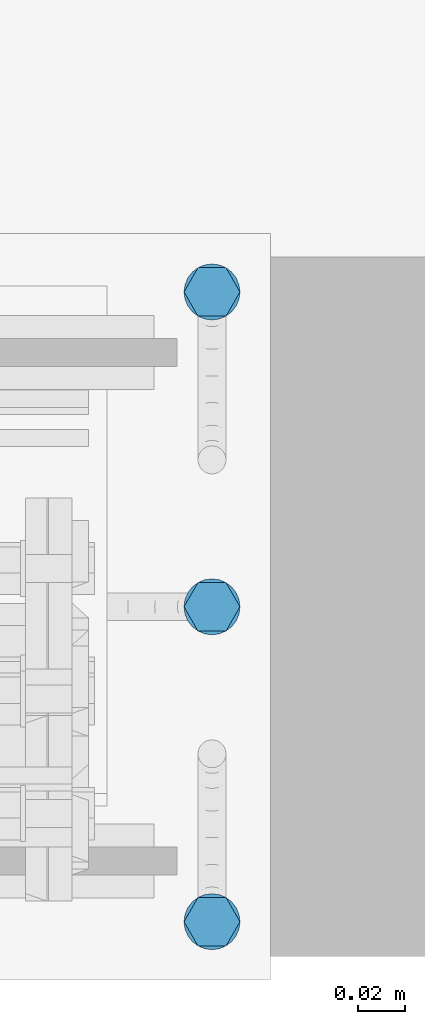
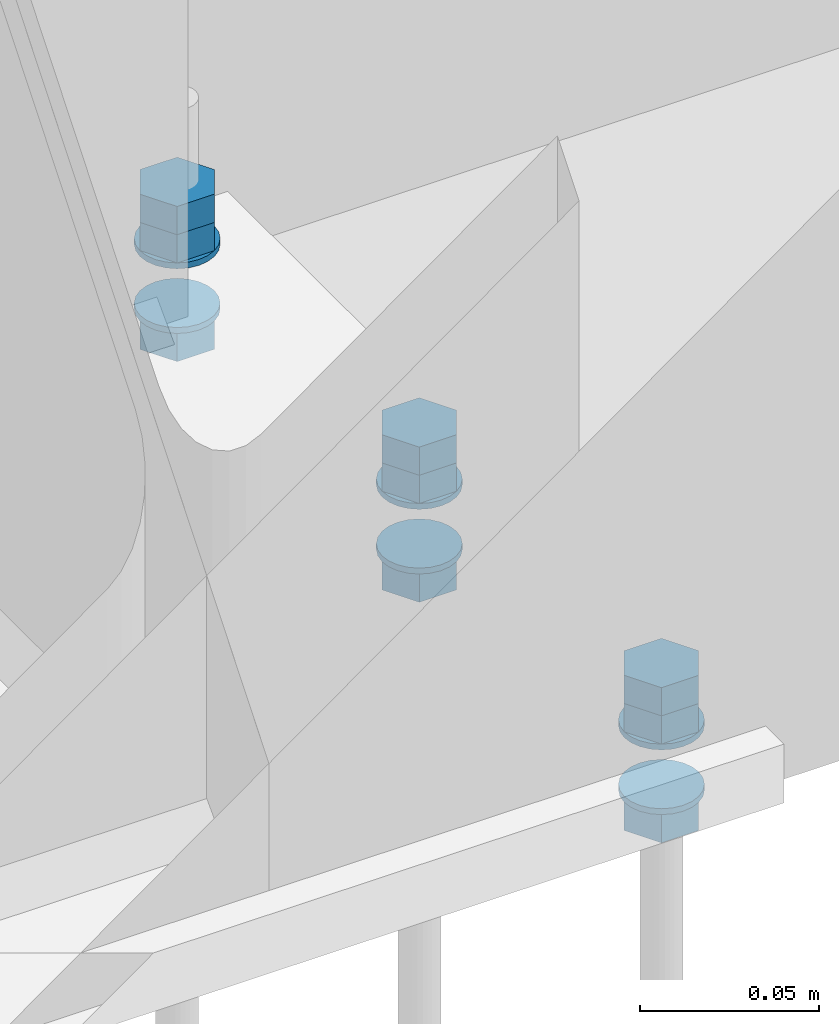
# One storey, part 36 of 72: 15 mechanical fasteners.
"""IFC4 building model written with IfcOpenShell, lengths in metres."""

from ifc_helpers import new_model, si_unit, frame, origin_with_axes, place, context, project, spatial, polyline, outline, extrude, type_object, element, save


model = new_model("IFC4")

# Units and contexts
model_context = context("Model", 3, precision=1e-05, world=origin_with_axes())
ifc_project = project(units=[si_unit("LENGTHUNIT", "METRE"), si_unit("AREAUNIT", "SQUARE_METRE"), si_unit("VOLUMEUNIT", "CUBIC_METRE"), si_unit("MASSUNIT", "GRAM", prefix="KILO"), si_unit("TIMEUNIT", "SECOND"), si_unit("PLANEANGLEUNIT", "RADIAN"), si_unit("SOLIDANGLEUNIT", "STERADIAN"), si_unit("THERMODYNAMICTEMPERATUREUNIT", "DEGREE_CELSIUS")], contexts=[model_context])

# Site, building, storey
placement_1 = place(None, origin_with_axes())
site = spatial("IfcSite", under=ifc_project, at=placement_1, Name="Italia", CompositionType="ELEMENT")
building = spatial("IfcBuilding", under=site, at=placement_1, Name="Uffici", CompositionType="ELEMENT")
storey = spatial("IfcBuildingStorey", under=building, at=placement_1, Name="Storey 0", CompositionType="ELEMENT", Elevation=0.0)

# Mechanical fasteners
mechanical_fastener_type_1 = type_object("IfcMechanicalFastenerType", Name="Collegamenti 0001_0101 0002_0102 0003_0103 0004_0104 0005_0105 0011_0111 0012_0112 0013_0113 0014_0114 0015_0115", PredefinedType="BOLT")
placement_2 = place(placement_1, origin_with_axes())
mechanical_fastener_1_placement = place(placement_2, origin_with_axes())
element("IfcMechanicalFastener", 1, at=mechanical_fastener_1_placement, inside=storey, type_object=mechanical_fastener_type_1, Name="Collegamenti 0001_0101 0002_0102 0003_0103 0004_0104 0005_0105 0011_0111 0012_0112 0013_0113 0014_0114 0015_0115", NominalDiameter=0.0119996, context=model_context, shape_type="SweptSolid", body=[
    extrude(outline(polyline([(0.0, 0.0), (0.0, 0.0119996), (0.0103923, 0.0179996), (0.0207846, 0.0119996), (0.0207846, 0.0), (0.0103923, -0.00600004), (0.0, 0.0)])), frame((6.896, -0.145392, 0.022), z_axis=(0.0, 0.0, 1.0), x_axis=(0.0, 1.0, 0.0)), (0.0, 0.0, 1.0), 0.0096),
])
mechanical_fastener_type_2 = type_object("IfcMechanicalFastenerType", Name="Collegamenti 0001_0101 0002_0102 0003_0103 0004_0104 0005_0105 0011_0111 0012_0112 0013_0113 0014_0114 0015_0115", PredefinedType="BOLT")
mechanical_fastener_2_placement = place(placement_2, origin_with_axes())
element("IfcMechanicalFastener", 2, at=mechanical_fastener_2_placement, inside=storey, type_object=mechanical_fastener_type_2, Name="Collegamenti 0001_0101 0002_0102 0003_0103 0004_0104 0005_0105 0011_0111 0012_0112 0013_0113 0014_0114 0015_0115", NominalDiameter=0.0119996, context=model_context, shape_type="SweptSolid", body=[
    extrude(outline(polyline([(0.0, 0.0), (0.0, 0.0119996), (0.0103923, 0.0179996), (0.0207846, 0.0119996), (0.0207846, 0.0), (0.0103923, -0.00600004), (0.0, 0.0)])), frame((6.896, -0.145392, 0.0316), z_axis=(0.0, 0.0, 1.0), x_axis=(0.0, 1.0, 0.0)), (0.0, 0.0, 1.0), 0.0096),
])
mechanical_fastener_type_3 = type_object("IfcMechanicalFastenerType", Name="Collegamenti 0001_0101 0002_0102 0003_0103 0004_0104 0005_0105 0011_0111 0012_0112 0013_0113 0014_0114 0015_0115", PredefinedType="BOLT")
mechanical_fastener_3_placement = place(placement_2, origin_with_axes())
element("IfcMechanicalFastener", 3, at=mechanical_fastener_3_placement, inside=storey, type_object=mechanical_fastener_type_3, Name="Collegamenti 0001_0101 0002_0102 0003_0103 0004_0104 0005_0105 0011_0111 0012_0112 0013_0113 0014_0114 0015_0115", NominalDiameter=0.0119996, context=model_context, shape_type="SweptSolid", body=[
    extrude(outline(polyline([(0.0, 0.0), (0.0, 0.0119996), (0.0103923, 0.0179996), (0.0207846, 0.0119996), (0.0207846, 0.0), (0.0103923, -0.00600004), (0.0, 0.0)])), frame((6.896, -0.145392, -0.0116), z_axis=(0.0, 0.0, 1.0), x_axis=(0.0, 1.0, 0.0)), (0.0, 0.0, 1.0), 0.0096),
])
mechanical_fastener_type_4 = type_object("IfcMechanicalFastenerType", Name="Collegamenti 0001_0101 0002_0102 0003_0103 0004_0104 0005_0105 0011_0111 0012_0112 0013_0113 0014_0114 0015_0115", PredefinedType="BOLT")
mechanical_fastener_4_placement = place(placement_2, origin_with_axes())
element("IfcMechanicalFastener", 4, at=mechanical_fastener_4_placement, inside=storey, type_object=mechanical_fastener_type_4, Name="Collegamenti 0001_0101 0002_0102 0003_0103 0004_0104 0005_0105 0011_0111 0012_0112 0013_0113 0014_0114 0015_0115", NominalDiameter=0.024, context=model_context, shape_type="SweptSolid", body=[
    extrude(outline(polyline([(0.0, 0.0), (-0.000408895, -0.00310564), (-0.00160769, -0.00600004), (-0.00351471, -0.00848532), (-0.006, -0.0103922), (-0.00889417, -0.011591), (-0.012, -0.0120001), (-0.0151058, -0.011591), (-0.018, -0.0103922), (-0.0204853, -0.00848532), (-0.0223923, -0.00600004), (-0.0235911, -0.00310564), (-0.024, 0.0), (-0.0235911, 0.00310564), (-0.0223923, 0.00600004), (-0.0204853, 0.00848532), (-0.018, 0.0103922), (-0.0151058, 0.011591), (-0.012, 0.0120001), (-0.00889417, 0.011591), (-0.006, 0.0103922), (-0.00351471, 0.00848532), (-0.00160769, 0.00600004), (-0.000408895, 0.00310564), (0.0, 0.0)])), frame((6.89, -0.123, 0.02), z_axis=(0.0, 0.0, 1.0), x_axis=(0.0, 1.0, 0.0)), (0.0, 0.0, 1.0), 0.002),
])
mechanical_fastener_type_5 = type_object("IfcMechanicalFastenerType", Name="Collegamenti 0001_0101 0002_0102 0003_0103 0004_0104 0005_0105 0011_0111 0012_0112 0013_0113 0014_0114 0015_0115", PredefinedType="BOLT")
mechanical_fastener_5_placement = place(placement_2, origin_with_axes())
element("IfcMechanicalFastener", 5, at=mechanical_fastener_5_placement, inside=storey, type_object=mechanical_fastener_type_5, Name="Collegamenti 0001_0101 0002_0102 0003_0103 0004_0104 0005_0105 0011_0111 0012_0112 0013_0113 0014_0114 0015_0115", NominalDiameter=0.024, context=model_context, shape_type="SweptSolid", body=[
    extrude(outline(polyline([(0.0, 0.0), (-0.000408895, -0.00310564), (-0.00160769, -0.00600004), (-0.00351471, -0.00848532), (-0.006, -0.0103922), (-0.00889417, -0.011591), (-0.012, -0.0120001), (-0.0151058, -0.011591), (-0.018, -0.0103922), (-0.0204853, -0.00848532), (-0.0223923, -0.00600004), (-0.0235911, -0.00310564), (-0.024, 0.0), (-0.0235911, 0.00310564), (-0.0223923, 0.00600004), (-0.0204853, 0.00848532), (-0.018, 0.0103922), (-0.0151058, 0.011591), (-0.012, 0.0120001), (-0.00889417, 0.011591), (-0.006, 0.0103922), (-0.00351471, 0.00848532), (-0.00160769, 0.00600004), (-0.000408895, 0.00310564), (0.0, 0.0)])), frame((6.89, -0.123, -0.002), z_axis=(0.0, 0.0, 1.0), x_axis=(0.0, 1.0, 0.0)), (0.0, 0.0, 1.0), 0.002),
])
mechanical_fastener_type_6 = type_object("IfcMechanicalFastenerType", Name="Collegamenti 0001_0101 0002_0102 0003_0103 0004_0104 0005_0105 0011_0111 0012_0112 0013_0113 0014_0114 0015_0115", PredefinedType="BOLT")
mechanical_fastener_6_placement = place(placement_2, origin_with_axes())
element("IfcMechanicalFastener", 6, at=mechanical_fastener_6_placement, inside=storey, type_object=mechanical_fastener_type_6, Name="Collegamenti 0001_0101 0002_0102 0003_0103 0004_0104 0005_0105 0011_0111 0012_0112 0013_0113 0014_0114 0015_0115", NominalDiameter=0.0119996, context=model_context, shape_type="SweptSolid", body=[
    extrude(outline(polyline([(0.0, 0.0), (0.0, 0.0119996), (0.0103923, 0.0179996), (0.0207846, 0.0119996), (0.0207846, 0.0), (0.0103923, -0.00600004), (0.0, 0.0)])), frame((6.896, -0.0103923, 0.022), z_axis=(0.0, 0.0, 1.0), x_axis=(0.0, 1.0, 0.0)), (0.0, 0.0, 1.0), 0.0096),
])
mechanical_fastener_type_7 = type_object("IfcMechanicalFastenerType", Name="Collegamenti 0001_0101 0002_0102 0003_0103 0004_0104 0005_0105 0011_0111 0012_0112 0013_0113 0014_0114 0015_0115", PredefinedType="BOLT")
mechanical_fastener_7_placement = place(placement_2, origin_with_axes())
element("IfcMechanicalFastener", 7, at=mechanical_fastener_7_placement, inside=storey, type_object=mechanical_fastener_type_7, Name="Collegamenti 0001_0101 0002_0102 0003_0103 0004_0104 0005_0105 0011_0111 0012_0112 0013_0113 0014_0114 0015_0115", NominalDiameter=0.0119996, context=model_context, shape_type="SweptSolid", body=[
    extrude(outline(polyline([(0.0, 0.0), (0.0, 0.0119996), (0.0103923, 0.0179996), (0.0207846, 0.0119996), (0.0207846, 0.0), (0.0103923, -0.00600004), (0.0, 0.0)])), frame((6.896, -0.0103923, 0.0316), z_axis=(0.0, 0.0, 1.0), x_axis=(0.0, 1.0, 0.0)), (0.0, 0.0, 1.0), 0.0096),
])
mechanical_fastener_type_8 = type_object("IfcMechanicalFastenerType", Name="Collegamenti 0001_0101 0002_0102 0003_0103 0004_0104 0005_0105 0011_0111 0012_0112 0013_0113 0014_0114 0015_0115", PredefinedType="BOLT")
mechanical_fastener_8_placement = place(placement_2, origin_with_axes())
element("IfcMechanicalFastener", 8, at=mechanical_fastener_8_placement, inside=storey, type_object=mechanical_fastener_type_8, Name="Collegamenti 0001_0101 0002_0102 0003_0103 0004_0104 0005_0105 0011_0111 0012_0112 0013_0113 0014_0114 0015_0115", NominalDiameter=0.0119996, context=model_context, shape_type="SweptSolid", body=[
    extrude(outline(polyline([(0.0, 0.0), (0.0, 0.0119996), (0.0103923, 0.0179996), (0.0207846, 0.0119996), (0.0207846, 0.0), (0.0103923, -0.00600004), (0.0, 0.0)])), frame((6.896, -0.0103923, -0.0116), z_axis=(0.0, 0.0, 1.0), x_axis=(0.0, 1.0, 0.0)), (0.0, 0.0, 1.0), 0.0096),
])
mechanical_fastener_type_9 = type_object("IfcMechanicalFastenerType", Name="Collegamenti 0001_0101 0002_0102 0003_0103 0004_0104 0005_0105 0011_0111 0012_0112 0013_0113 0014_0114 0015_0115", PredefinedType="BOLT")
mechanical_fastener_9_placement = place(placement_2, origin_with_axes())
element("IfcMechanicalFastener", 9, at=mechanical_fastener_9_placement, inside=storey, type_object=mechanical_fastener_type_9, Name="Collegamenti 0001_0101 0002_0102 0003_0103 0004_0104 0005_0105 0011_0111 0012_0112 0013_0113 0014_0114 0015_0115", NominalDiameter=0.024, context=model_context, shape_type="SweptSolid", body=[
    extrude(outline(polyline([(0.0, 0.0), (-0.00040889, -0.00310564), (-0.0016077, -0.00600004), (-0.00351472, -0.00848532), (-0.006, -0.0103922), (-0.00889417, -0.011591), (-0.012, -0.0120001), (-0.0151058, -0.011591), (-0.018, -0.0103922), (-0.0204853, -0.00848532), (-0.0223923, -0.00600004), (-0.0235911, -0.00310564), (-0.024, 0.0), (-0.0235911, 0.00310564), (-0.0223923, 0.00600004), (-0.0204853, 0.00848532), (-0.018, 0.0103922), (-0.0151058, 0.011591), (-0.012, 0.0120001), (-0.00889417, 0.011591), (-0.006, 0.0103922), (-0.00351472, 0.00848532), (-0.00160769, 0.00600004), (-0.00040889, 0.00310564), (0.0, 0.0)])), frame((6.89, 0.012, 0.02), z_axis=(0.0, 0.0, 1.0), x_axis=(0.0, 1.0, 0.0)), (0.0, 0.0, 1.0), 0.002),
])
mechanical_fastener_type_10 = type_object("IfcMechanicalFastenerType", Name="Collegamenti 0001_0101 0002_0102 0003_0103 0004_0104 0005_0105 0011_0111 0012_0112 0013_0113 0014_0114 0015_0115", PredefinedType="BOLT")
mechanical_fastener_10_placement = place(placement_2, origin_with_axes())
element("IfcMechanicalFastener", 10, at=mechanical_fastener_10_placement, inside=storey, type_object=mechanical_fastener_type_10, Name="Collegamenti 0001_0101 0002_0102 0003_0103 0004_0104 0005_0105 0011_0111 0012_0112 0013_0113 0014_0114 0015_0115", NominalDiameter=0.024, context=model_context, shape_type="SweptSolid", body=[
    extrude(outline(polyline([(0.0, 0.0), (-0.00040889, -0.00310564), (-0.0016077, -0.00600004), (-0.00351472, -0.00848532), (-0.006, -0.0103922), (-0.00889417, -0.011591), (-0.012, -0.0120001), (-0.0151058, -0.011591), (-0.018, -0.0103922), (-0.0204853, -0.00848532), (-0.0223923, -0.00600004), (-0.0235911, -0.00310564), (-0.024, 0.0), (-0.0235911, 0.00310564), (-0.0223923, 0.00600004), (-0.0204853, 0.00848532), (-0.018, 0.0103922), (-0.0151058, 0.011591), (-0.012, 0.0120001), (-0.00889417, 0.011591), (-0.006, 0.0103922), (-0.00351472, 0.00848532), (-0.00160769, 0.00600004), (-0.00040889, 0.00310564), (0.0, 0.0)])), frame((6.89, 0.012, -0.002), z_axis=(0.0, 0.0, 1.0), x_axis=(0.0, 1.0, 0.0)), (0.0, 0.0, 1.0), 0.002),
])
mechanical_fastener_type_11 = type_object("IfcMechanicalFastenerType", Name="Collegamenti 0001_0101 0002_0102 0003_0103 0004_0104 0005_0105 0011_0111 0012_0112 0013_0113 0014_0114 0015_0115", PredefinedType="BOLT")
mechanical_fastener_11_placement = place(placement_2, origin_with_axes())
element("IfcMechanicalFastener", 11, at=mechanical_fastener_11_placement, inside=storey, type_object=mechanical_fastener_type_11, Name="Collegamenti 0001_0101 0002_0102 0003_0103 0004_0104 0005_0105 0011_0111 0012_0112 0013_0113 0014_0114 0015_0115", NominalDiameter=0.0119996, context=model_context, shape_type="SweptSolid", body=[
    extrude(outline(polyline([(0.0, 0.0), (0.0, 0.0119996), (0.0103923, 0.0179996), (0.0207846, 0.0119996), (0.0207846, 0.0), (0.0103923, -0.00600004), (0.0, 0.0)])), frame((6.896, 0.124608, 0.022), z_axis=(0.0, 0.0, 1.0), x_axis=(0.0, 1.0, 0.0)), (0.0, 0.0, 1.0), 0.0096),
])
mechanical_fastener_type_12 = type_object("IfcMechanicalFastenerType", Name="Collegamenti 0001_0101 0002_0102 0003_0103 0004_0104 0005_0105 0011_0111 0012_0112 0013_0113 0014_0114 0015_0115", PredefinedType="BOLT")
mechanical_fastener_12_placement = place(placement_2, origin_with_axes())
element("IfcMechanicalFastener", 12, at=mechanical_fastener_12_placement, inside=storey, type_object=mechanical_fastener_type_12, Name="Collegamenti 0001_0101 0002_0102 0003_0103 0004_0104 0005_0105 0011_0111 0012_0112 0013_0113 0014_0114 0015_0115", NominalDiameter=0.0119996, context=model_context, shape_type="SweptSolid", body=[
    extrude(outline(polyline([(0.0, 0.0), (0.0, 0.0119996), (0.0103923, 0.0179996), (0.0207846, 0.0119996), (0.0207846, 0.0), (0.0103923, -0.00600004), (0.0, 0.0)])), frame((6.896, 0.124608, 0.0316), z_axis=(0.0, 0.0, 1.0), x_axis=(0.0, 1.0, 0.0)), (0.0, 0.0, 1.0), 0.0096),
])
mechanical_fastener_type_13 = type_object("IfcMechanicalFastenerType", Name="Collegamenti 0001_0101 0002_0102 0003_0103 0004_0104 0005_0105 0011_0111 0012_0112 0013_0113 0014_0114 0015_0115", PredefinedType="BOLT")
mechanical_fastener_13_placement = place(placement_2, origin_with_axes())
element("IfcMechanicalFastener", 13, at=mechanical_fastener_13_placement, inside=storey, type_object=mechanical_fastener_type_13, Name="Collegamenti 0001_0101 0002_0102 0003_0103 0004_0104 0005_0105 0011_0111 0012_0112 0013_0113 0014_0114 0015_0115", NominalDiameter=0.0119996, context=model_context, shape_type="SweptSolid", body=[
    extrude(outline(polyline([(0.0, 0.0), (0.0, 0.0119996), (0.0103923, 0.0179996), (0.0207846, 0.0119996), (0.0207846, 0.0), (0.0103923, -0.00600004), (0.0, 0.0)])), frame((6.896, 0.124608, -0.0116), z_axis=(0.0, 0.0, 1.0), x_axis=(0.0, 1.0, 0.0)), (0.0, 0.0, 1.0), 0.0096),
])
mechanical_fastener_type_14 = type_object("IfcMechanicalFastenerType", Name="Collegamenti 0001_0101 0002_0102 0003_0103 0004_0104 0005_0105 0011_0111 0012_0112 0013_0113 0014_0114 0015_0115", PredefinedType="BOLT")
mechanical_fastener_14_placement = place(placement_2, origin_with_axes())
element("IfcMechanicalFastener", 14, at=mechanical_fastener_14_placement, inside=storey, type_object=mechanical_fastener_type_14, Name="Collegamenti 0001_0101 0002_0102 0003_0103 0004_0104 0005_0105 0011_0111 0012_0112 0013_0113 0014_0114 0015_0115", NominalDiameter=0.024, context=model_context, shape_type="SweptSolid", body=[
    extrude(outline(polyline([(0.0, 0.0), (-0.000408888, -0.00310564), (-0.00160769, -0.00600004), (-0.00351471, -0.00848532), (-0.006, -0.0103922), (-0.00889416, -0.011591), (-0.012, -0.0120001), (-0.0151058, -0.011591), (-0.018, -0.0103922), (-0.0204853, -0.00848532), (-0.0223923, -0.00600004), (-0.0235911, -0.00310564), (-0.024, 0.0), (-0.0235911, 0.00310564), (-0.0223923, 0.00600004), (-0.0204853, 0.00848532), (-0.018, 0.0103922), (-0.0151058, 0.011591), (-0.012, 0.0120001), (-0.00889416, 0.011591), (-0.006, 0.0103922), (-0.00351471, 0.00848532), (-0.00160769, 0.00600004), (-0.000408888, 0.00310564), (0.0, 0.0)])), frame((6.89, 0.147, 0.02), z_axis=(0.0, 0.0, 1.0), x_axis=(0.0, 1.0, 0.0)), (0.0, 0.0, 1.0), 0.002),
])
mechanical_fastener_type_15 = type_object("IfcMechanicalFastenerType", Name="Collegamenti 0001_0101 0002_0102 0003_0103 0004_0104 0005_0105 0011_0111 0012_0112 0013_0113 0014_0114 0015_0115", PredefinedType="BOLT")
mechanical_fastener_15_placement = place(placement_2, origin_with_axes())
element("IfcMechanicalFastener", 15, at=mechanical_fastener_15_placement, inside=storey, type_object=mechanical_fastener_type_15, Name="Collegamenti 0001_0101 0002_0102 0003_0103 0004_0104 0005_0105 0011_0111 0012_0112 0013_0113 0014_0114 0015_0115", NominalDiameter=0.024, context=model_context, shape_type="SweptSolid", body=[
    extrude(outline(polyline([(0.0, 0.0), (-0.000408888, -0.00310564), (-0.00160769, -0.00600004), (-0.00351471, -0.00848532), (-0.006, -0.0103922), (-0.00889416, -0.011591), (-0.012, -0.0120001), (-0.0151058, -0.011591), (-0.018, -0.0103922), (-0.0204853, -0.00848532), (-0.0223923, -0.00600004), (-0.0235911, -0.00310564), (-0.024, 0.0), (-0.0235911, 0.00310564), (-0.0223923, 0.00600004), (-0.0204853, 0.00848532), (-0.018, 0.0103922), (-0.0151058, 0.011591), (-0.012, 0.0120001), (-0.00889416, 0.011591), (-0.006, 0.0103922), (-0.00351471, 0.00848532), (-0.00160769, 0.00600004), (-0.000408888, 0.00310564), (0.0, 0.0)])), frame((6.89, 0.147, -0.002), z_axis=(0.0, 0.0, 1.0), x_axis=(0.0, 1.0, 0.0)), (0.0, 0.0, 1.0), 0.002),
])

save(model, "model.ifc")
